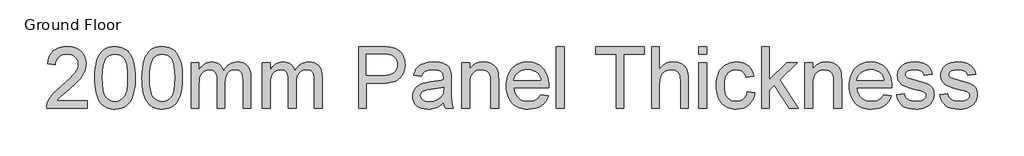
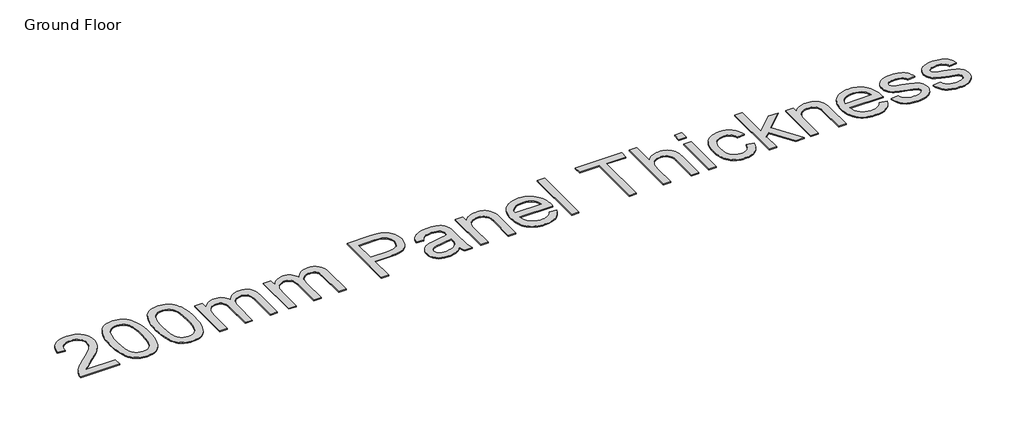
# One storey, part 11 of 12: 1 proxy.
"""IFC4 building model written with IfcOpenShell, lengths in millimetres."""

import ifcopenshell
import ifcopenshell.guid

model = None  # the IFC model being written
_history = None  # IfcOwnerHistory: only IFC2X3 demands one
_inside = {}  # id of a spatial element -> (the spatial element, [elements in it])
_under = {}  # id of a project, library or spatial element -> (it, [spatial elements below it])
_declared = {}  # id of a project -> (the project, [libraries it declares])
_typed = {}  # id of a type object -> (the type object, [elements of that type])
_made_of = {}  # id of a material, layer set ... -> (it, [elements and type objects made of it])


def new_model(schema):
    """Start an empty IFC model of exactly this schema.

    Asked for "IFC4X3", IfcOpenShell would pick the latest addendum, in which some entities
    have other attributes; the version numbers below select the first issue.
    IFC2X3 requires an IfcOwnerHistory on every rooted entity: one is made here for all.
    """
    global model, _history
    if schema == "IFC4X3":
        model = ifcopenshell.file(schema_version=(4, 3, 0, 0))
    else:
        model = ifcopenshell.file(schema=schema)
    _inside.clear()
    _under.clear()
    _declared.clear()
    _typed.clear()
    _made_of.clear()
    _history = None
    if model.schema == "IFC2X3":
        org = make("IfcOrganization", Name="unknown")
        user = make(
            "IfcPersonAndOrganization",
            ThePerson=make("IfcPerson", FamilyName="unknown"),
            TheOrganization=org,
        )
        app = make(
            "IfcApplication",
            ApplicationDeveloper=org,
            Version="unknown",
            ApplicationFullName="unknown",
            ApplicationIdentifier="unknown",
        )
        _history = make(
            "IfcOwnerHistory",
            OwningUser=user,
            OwningApplication=app,
            ChangeAction="ADDED",
            CreationDate=0,
        )
    return model


def make(cls, **values):
    """One entity of the class cls with the attributes given. An attribute that is None is left unset."""
    return model.create_entity(
        cls, **{name: value for name, value in values.items() if value is not None}
    )


def rooted(cls, **values):
    """An entity with a GlobalId (a new one), such as an element, a storey or a relation."""
    return make(cls, GlobalId=ifcopenshell.guid.new(), OwnerHistory=_history, **values)


def si_unit(unit_type, name, prefix=None):
    """IfcSIUnit, for example si_unit("LENGTHUNIT", "METRE", prefix="MILLI")."""
    return make("IfcSIUnit", UnitType=unit_type, Prefix=prefix, Name=name)


def assignment(units):
    """IfcUnitAssignment: the units of a project."""
    return None if units is None else make("IfcUnitAssignment", Units=units)


def point(xyz):
    """IfcCartesianPoint."""
    return None if xyz is None else make("IfcCartesianPoint", Coordinates=xyz)


def direction(xyz):
    """IfcDirection."""
    return None if xyz is None else make("IfcDirection", DirectionRatios=xyz)


def frame(location, z_axis=None, x_axis=None):
    """IfcAxis2Placement3D, a coordinate frame: its origin and axes. An axis left out is left unset."""
    return make(
        "IfcAxis2Placement3D",
        Location=point(location),
        Axis=direction(z_axis),
        RefDirection=direction(x_axis),
    )


def origin():
    """The frame at (0, 0, 0) with its axes left unset."""
    return frame((0.0, 0.0, 0.0))


def origin_with_axes():
    """The frame at (0, 0, 0) with the z axis (0, 0, 1) and the x axis (1, 0, 0) written out."""
    return frame((0.0, 0.0, 0.0), z_axis=(0.0, 0.0, 1.0), x_axis=(1.0, 0.0, 0.0))


def place(relative_to, where):
    """IfcLocalPlacement: puts the frame where relative to a parent placement (None: the world)."""
    return make(
        "IfcLocalPlacement", PlacementRelTo=relative_to, RelativePlacement=where
    )


def context(
    kind, dimensions, precision=None, world=None, true_north=None, identifier=None
):
    """IfcGeometricRepresentationContext, for example the 3D "Model" context."""
    return make(
        "IfcGeometricRepresentationContext",
        ContextIdentifier=identifier,
        ContextType=kind,
        CoordinateSpaceDimension=dimensions,
        Precision=precision,
        WorldCoordinateSystem=world,
        TrueNorth=true_north,
    )


def project(units=None, contexts=None):
    """IfcProject with its units and contexts."""
    return rooted(
        "IfcProject",
        Name="project",
        RepresentationContexts=contexts,
        UnitsInContext=assignment(units),
    )


def spatial(cls, under=None, at=None, **own):
    """A site, building, storey or space (cls), placed at a placement, below another one or the project."""
    s = rooted(cls, ObjectPlacement=at, **own)
    if under is not None:
        _under.setdefault(under.id(), (under, []))[1].append(s)
    return s


def polyline(points):
    """IfcPolyline through the points."""
    return make("IfcPolyline", Points=[point(p) for p in points])


def outline(outer, holes=None, kind="AREA"):
    """IfcArbitraryClosedProfileDef: a profile drawn as a closed curve; with holes, ...WithVoids."""
    if holes is None:
        return make("IfcArbitraryClosedProfileDef", ProfileType=kind, OuterCurve=outer)
    return make(
        "IfcArbitraryProfileDefWithVoids",
        ProfileType=kind,
        OuterCurve=outer,
        InnerCurves=holes,
    )


def extrude(swept, where, along, depth):
    """IfcExtrudedAreaSolid: the profile swept, set in the frame where, extruded along a direction by depth."""
    return make(
        "IfcExtrudedAreaSolid",
        SweptArea=swept,
        Position=where,
        ExtrudedDirection=direction(along),
        Depth=depth,
    )


def shape(context_of_items, identifier, shape_type, items):
    """IfcShapeRepresentation: the items that make up one representation, for example the "Body"."""
    return make(
        "IfcShapeRepresentation",
        ContextOfItems=context_of_items,
        RepresentationIdentifier=identifier,
        RepresentationType=shape_type,
        Items=items,
    )


def made_of(thing, what):
    """Note that an element or type object is made of a material, layer set ...; save() writes the relation."""
    if what is not None:
        _made_of.setdefault(what.id(), (what, []))[1].append(thing)
    return thing


def element(
    cls,
    number,
    at=None,
    inside=None,
    cuts=None,
    type_object=None,
    material=None,
    context=None,
    identifier="Body",
    shape_type=None,
    held_by="IfcProductDefinitionShape",
    body=None,
    shapes=None,
    **own,
):
    """One element of the class cls, such as IfcWall. Its Tag is "e" and its number.

    at: its placement. inside: the storey or other place that contains it. cuts: it is an
    opening in that element (IfcRelVoidsElement). A single representation is given by context,
    identifier, shape_type and body (its items); several are given by shapes. held_by: the class
    of the entity that holds the representations. save() writes the other relations.
    """
    e = rooted(cls, Tag="e%d" % number, ObjectPlacement=at, **own)
    if body is not None:
        shapes = [shape(context, identifier, shape_type, body)]
    if shapes is not None:
        e.Representation = make(held_by, Representations=shapes)
    if inside is not None:
        _inside.setdefault(inside.id(), (inside, []))[1].append(e)
    if cuts is not None:
        rooted(
            "IfcRelVoidsElement", RelatingBuildingElement=cuts, RelatedOpeningElement=e
        )
    if type_object is not None:
        _typed.setdefault(type_object.id(), (type_object, []))[1].append(e)
    return made_of(e, material)


def aggregate(whole, parts):
    """IfcRelAggregates: a whole, such as a stair, and the parts it consists of."""
    return rooted("IfcRelAggregates", RelatingObject=whole, RelatedObjects=parts)


def save(model, path):
    """Write the relations noted so far, then the file.

    IfcRelAggregates (storeys below a building ...), IfcRelContainedInSpatialStructure (elements
    in a storey), IfcRelDefinesByType, IfcRelAssociatesMaterial and IfcRelDeclares: one each for
    every whole, place, type object, material and project.
    """
    for whole, parts in _under.values():
        aggregate(whole, parts)
    for where, things in _inside.values():
        rooted(
            "IfcRelContainedInSpatialStructure",
            RelatedElements=things,
            RelatingStructure=where,
        )
    for kind, things in _typed.values():
        rooted("IfcRelDefinesByType", RelatedObjects=things, RelatingType=kind)
    for what, things in _made_of.values():
        rooted("IfcRelAssociatesMaterial", RelatedObjects=things, RelatingMaterial=what)
    for by, libraries in _declared.values():
        rooted("IfcRelDeclares", RelatingContext=by, RelatedDefinitions=libraries)
    model.write(path)


model = new_model("IFC4")

# Units and contexts
model_context = context("Model", 3, world=origin())
ifc_project = project(units=[si_unit("LENGTHUNIT", "METRE", prefix="MILLI")], contexts=[model_context])

# Site, building, storey
site = spatial("IfcSite", under=ifc_project)
building = spatial("IfcBuilding", under=site)
storey = spatial("IfcBuildingStorey", under=building, Name="Ground Floor", Elevation=0.0)

# Proxy
placement = place(None, origin())
element("IfcBuildingElementProxy", 1, Name="1200mm Arial", ObjectType="1200mm Arial", at=placement, inside=storey, context=model_context, shape_type="SweptSolid", body=[
    extrude(outline(polyline([(150396.7722355, 23157.3033412), (150396.7722355, 23010.3942503), (149625.4995082, 23010.3942503), (149628.7274912, 23062.1137105), (149641.2807582, 23111.6811821), (149657.2951404, 23151.5557382), (149677.5059003, 23190.8384974), (149701.9130381, 23229.5294598), (149730.5165537, 23267.6286253), (149765.0380381, 23306.6244527), (149807.1990821, 23348.0054008), (149914.4398492, 23437.9226594), (150001.6312554, 23512.9373966), (150072.9696787, 23578.7344491), (150128.455119, 23635.313817), (150168.0875764, 23682.6755003), (150195.8302966, 23725.1414094), (150215.6465253, 23767.0334548), (150227.5362625, 23808.3516366), (150231.4995082, 23849.0959548), (150227.760428, 23887.4282524), (150216.5431872, 23922.6580997), (150197.8477859, 23954.7854967), (150171.6742242, 23983.8104434), (150139.4750942, 24007.8499498), (150102.7029884, 24025.0210258), (150061.3579067, 24035.3236714), (150015.4398492, 24038.7578866), (149967.0649379, 24035.404371), (149923.8009997, 24025.3438241), (149885.6480345, 24008.576246), (149852.6060423, 23985.1016366), (149825.8765502, 23955.7090585), (149806.661085, 23921.1875741), (149794.9596467, 23881.5371835), (149790.7722355, 23836.7578866), (149643.8631446, 23855.121523), (149656.4971112, 23930.9611892), (149666.6943991, 23965.2898912), (149679.4785565, 23997.2245059), (149694.8495837, 24026.7650333), (149712.8074805, 24053.9114733), (149733.3522471, 24078.6638259), (149756.4838832, 24101.0220912), (149781.9513238, 24120.8607364), (149809.5035033, 24138.054229), (149839.1404218, 24152.6025688), (149870.8620793, 24164.5057559), (149940.5596112, 24180.3766721), (150018.5960992, 24185.6669775), (150097.3319834, 24179.7848753), (150133.4517677, 24172.4322474), (150167.4061134, 24162.1385684), (150199.1950205, 24148.9038383), (150228.8184891, 24132.7280571), (150256.2765191, 24113.6112247), (150281.5691105, 24091.5533412), (150304.2658657, 24067.3165692), (150323.9363868, 24041.6630713), (150340.5806739, 24014.5928476), (150354.198727, 23986.105898), (150364.7905461, 23956.2022226), (150372.3561311, 23924.8818213), (150378.4085992, 23857.9908412), (150376.7766744, 23822.7071942), (150371.8809003, 23787.7284122), (150363.7212767, 23753.0544953), (150352.2978037, 23718.6854434), (150337.0814507, 23684.0204932), (150317.5431872, 23648.4588809), (150265.5009287, 23574.6456707), (150229.5896183, 23533.7130535), (150182.5417668, 23486.5217361), (150055.0364401, 23373.3630003), (149886.0335992, 23232.0490798), (149849.3780594, 23194.7838099), (149819.7523492, 23157.3033412), (150396.7722355, 23157.3033412)])), origin_with_axes(), (0.0, 0.0, 1.0), 20.0),
    extrude(outline(polyline([(150543.6813264, 23588.5618639), (150546.3802788, 23687.3829754), (150554.4771361, 23776.6815372), (150567.9718982, 23856.4575493), (150586.8645651, 23926.7110116), (150611.0744372, 23988.0157879), (150640.5208151, 24040.9457417), (150675.2036986, 24085.5008731), (150715.1230878, 24121.6811821), (150760.413482, 24149.6749676), (150811.2093804, 24169.6705287), (150867.5107831, 24181.6678653), (150929.3176901, 24185.6669775), (150975.7647781, 24183.29979), (151019.8446787, 24176.1982275), (151061.5573918, 24164.36229), (151100.9029173, 24147.7919775), (151136.9307938, 24126.7652552), (151168.6905594, 24101.5600883), (151196.1822142, 24072.1764768), (151219.4057582, 24038.6144207), (151239.526852, 24001.0084193), (151257.711156, 23959.4929719), (151288.2693946, 23864.7337389), (151299.943933, 23809.0061998), (151308.2828889, 23744.4017076), (151313.2862625, 23670.9202623), (151314.9540537, 23588.5618639), (151312.2820011, 23490.3684157), (151304.2658435, 23401.5181849), (151290.9055807, 23322.0111714), (151272.2012128, 23251.8473753), (151248.1796396, 23190.5156991), (151218.8677611, 23137.5050457), (151184.2655771, 23092.815415), (151144.3730878, 23056.4468071), (151099.0288939, 23028.2647226), (151048.0715963, 23008.1346622), (150991.501195, 22996.056626), (150929.3176901, 22992.0306139), (150887.7125764, 22993.7791047), (150848.4029173, 22999.024577), (150811.3887128, 23007.7670308), (150776.6699628, 23020.0064662), (150744.2466673, 23035.7428831), (150714.1188264, 23054.9762815), (150686.2864401, 23077.7066615), (150660.7495082, 23103.934023), (150633.3116531, 23145.4629204), (150609.5321787, 23192.4345557), (150589.411085, 23244.8489289), (150572.9483719, 23302.70604), (150560.1440395, 23366.0058891), (150550.9980878, 23434.7484761), (150545.5105168, 23508.933801), (150543.6813264, 23588.5618639)]), holes=[polyline([(150690.5904173, 23588.8487957), (150694.8943946, 23461.1372368), (150707.8063264, 23357.7610826), (150717.4902753, 23315.1987824), (150729.3262128, 23278.7203334), (150743.3141389, 23248.3257355), (150759.4540537, 23224.0149889), (150795.8943946, 23186.7945521), (150836.351781, 23160.2085258), (150880.8262128, 23144.2569101), (150929.3176901, 23138.9397048), (150977.8091673, 23144.2748433), (151022.2835992, 23160.2802588), (151062.7409855, 23186.9559513), (151099.1813264, 23224.3019207), (151115.3212412, 23248.6709504), (151129.3091673, 23279.0969314), (151141.1451048, 23315.5798637), (151150.8290537, 23358.1197474), (151163.7409855, 23461.3703689), (151168.0449628, 23588.8487957), (151163.8844514, 23713.1799392), (151151.4029173, 23814.7358696), (151142.0417668, 23856.9731299), (151130.6003605, 23893.5165869), (151117.0786986, 23924.3662407), (151101.476781, 23949.5220912), (151065.6461702, 23988.5627517), (151024.7225196, 24016.4489378), (150978.7058293, 24033.1806494), (150927.5960992, 24038.7578866), (150879.3556872, 24033.8441792), (150835.6344514, 24019.1030571), (150796.4323918, 23994.5345201), (150761.7495082, 23960.1385684), (150745.0715963, 23932.3061821), (150730.617406, 23899.1655571), (150718.3869372, 23860.7166934), (150708.3801901, 23816.9595912), (150695.0378605, 23713.5206707), (150690.5904173, 23588.8487957)])]), origin_with_axes(), (0.0, 0.0, 1.0), 20.0),
    extrude(outline(polyline([(151443.4995082, 23588.5618639), (151446.1984607, 23687.3829754), (151454.2953179, 23776.6815372), (151467.79008, 23856.4575493), (151486.6827469, 23926.7110116), (151510.892619, 23988.0157879), (151540.3389969, 24040.9457417), (151575.0218804, 24085.5008731), (151614.9412696, 24121.6811821), (151660.2316638, 24149.6749676), (151711.0275622, 24169.6705287), (151767.3289649, 24181.6678653), (151829.1358719, 24185.6669775), (151875.58296, 24183.29979), (151919.6628605, 24176.1982275), (151961.3755736, 24164.36229), (152000.7210992, 24147.7919775), (152036.7489756, 24126.7652552), (152068.5087412, 24101.5600883), (152096.000396, 24072.1764768), (152119.2239401, 24038.6144207), (152139.3450338, 24001.0084193), (152157.5293378, 23959.4929719), (152188.0875764, 23864.7337389), (152199.7621148, 23809.0061998), (152208.1010707, 23744.4017076), (152213.1044443, 23670.9202623), (152214.7722355, 23588.5618639), (152212.100183, 23490.3684157), (152204.0840253, 23401.5181849), (152190.7237625, 23322.0111714), (152172.0193946, 23251.8473753), (152147.9978215, 23190.5156991), (152118.6859429, 23137.5050457), (152084.083759, 23092.815415), (152044.1912696, 23056.4468071), (151998.8470757, 23028.2647226), (151947.8897781, 23008.1346622), (151891.3193769, 22996.056626), (151829.1358719, 22992.0306139), (151787.5307582, 22993.7791047), (151748.2210992, 22999.024577), (151711.2068946, 23007.7670308), (151676.4881446, 23020.0064662), (151644.0648492, 23035.7428831), (151613.9370082, 23054.9762815), (151586.1046219, 23077.7066615), (151560.5676901, 23103.934023), (151533.129835, 23145.4629204), (151509.3503605, 23192.4345557), (151489.2292668, 23244.8489289), (151472.7665537, 23302.70604), (151459.9622213, 23366.0058891), (151450.8162696, 23434.7484761), (151445.3286986, 23508.933801), (151443.4995082, 23588.5618639)]), holes=[polyline([(151590.4085992, 23588.8487957), (151594.7125764, 23461.1372368), (151607.6245082, 23357.7610826), (151617.3084571, 23315.1987824), (151629.1443946, 23278.7203334), (151643.1323207, 23248.3257355), (151659.2722355, 23224.0149889), (151695.7125764, 23186.7945521), (151736.1699628, 23160.2085258), (151780.6443946, 23144.2569101), (151829.1358719, 23138.9397048), (151877.6273492, 23144.2748433), (151922.101781, 23160.2802588), (151962.5591673, 23186.9559513), (151998.9995082, 23224.3019207), (152015.139423, 23248.6709504), (152029.1273492, 23279.0969314), (152040.9632867, 23315.5798637), (152050.6472355, 23358.1197474), (152063.5591673, 23461.3703689), (152067.8631446, 23588.8487957), (152063.7026332, 23713.1799392), (152051.2210992, 23814.7358696), (152041.8599486, 23856.9731299), (152030.4185423, 23893.5165869), (152016.8968804, 23924.3662407), (152001.2949628, 23949.5220912), (151965.464352, 23988.5627517), (151924.5407014, 24016.4489378), (151878.5240111, 24033.1806494), (151827.414281, 24038.7578866), (151779.173869, 24033.8441792), (151735.4526332, 24019.1030571), (151696.2505736, 23994.5345201), (151661.5676901, 23960.1385684), (151644.8897781, 23932.3061821), (151630.4355878, 23899.1655571), (151618.205119, 23860.7166934), (151608.1983719, 23816.9595912), (151594.8560423, 23713.5206707), (151590.4085992, 23588.8487957)])]), origin_with_axes(), (0.0, 0.0, 1.0), 20.0),
    extrude(outline(polyline([(152380.0449628, 23010.3942503), (152380.0449628, 23873.4851594), (152526.9540537, 23873.4851594), (152526.9540537, 23731.4539094), (152547.4696787, 23765.8408944), (152571.1415537, 23796.6950315), (152597.9696787, 23824.0163206), (152627.9540537, 23847.8047616), (152660.6104813, 23867.0740265), (152695.4547639, 23880.8377872), (152732.4869017, 23889.0960436), (152771.7068946, 23891.8487957), (152814.5852682, 23889.0422439), (152853.4107298, 23880.6225883), (152888.1832796, 23866.5898291), (152918.9029173, 23846.9439662), (152945.479977, 23822.24093), (152967.8247923, 23793.0366508), (152985.9373634, 23759.3311288), (152999.8176901, 23721.1243639), (153025.6505203, 23761.1379026), (153053.3663406, 23795.8163028), (153082.965151, 23825.1595645), (153114.4469514, 23849.1676878), (153147.8117419, 23867.8406725), (153183.0595225, 23881.1785187), (153220.190293, 23889.1812265), (153259.2040537, 23891.8487957), (153318.0161098, 23887.4103192), (153369.6369372, 23874.0948895), (153414.0665359, 23851.9025067), (153451.304906, 23820.8331707), (153480.7423172, 23780.5282169), (153501.7690395, 23730.6289804), (153514.3850729, 23671.1354612), (153518.5904173, 23602.0476594), (153518.5904173, 23010.3942503), (153371.6813264, 23010.3942503), (153371.6813264, 23538.9226594), (153368.2740111, 23612.1978724), (153358.0520651, 23661.5860116), (153349.856575, 23679.4026842), (153338.8993662, 23695.4080997), (153325.1804386, 23709.6022581), (153308.6997923, 23721.9851594), (153290.0581908, 23732.027773), (153269.8563975, 23739.2010684), (153224.7722355, 23744.9397048), (153183.140222, 23741.2633909), (153145.1845225, 23730.2344491), (153110.9051368, 23711.8528795), (153080.3020651, 23686.1186821), (153055.1327646, 23652.2786608), (153037.1546929, 23609.5796196), (153026.3678499, 23558.0215585), (153022.7722355, 23497.6044775), (153022.7722355, 23010.3942503), (152875.8631446, 23010.3942503), (152875.8631446, 23555.277773), (152873.7380558, 23599.7880713), (152867.3627895, 23638.3445344), (152856.7373456, 23670.9471622), (152841.8617242, 23697.5959548), (152822.1441283, 23718.3088454), (152796.9927611, 23733.1037673), (152766.4076226, 23741.9807204), (152730.3887128, 23744.9397048), (152701.5341318, 23742.9670486), (152673.7914117, 23737.0490798), (152647.1605523, 23727.1857986), (152621.6415537, 23713.3772048), (152598.4000764, 23695.7667645), (152578.601781, 23674.4979434), (152562.2466673, 23649.5707417), (152549.3347355, 23620.9851594), (152539.5431872, 23587.216871), (152532.5492242, 23546.7415514), (152526.9540537, 23445.6698184), (152526.9540537, 23010.3942503), (152380.0449628, 23010.3942503)])), origin_with_axes(), (0.0, 0.0, 1.0), 20.0),
    extrude(outline(polyline([(153738.9540537, 23010.3942503), (153738.9540537, 23873.4851594), (153885.8631446, 23873.4851594), (153885.8631446, 23731.4539094), (153906.3787696, 23765.8408944), (153930.0506446, 23796.6950315), (153956.8787696, 23824.0163206), (153986.8631446, 23847.8047616), (154019.5195722, 23867.0740265), (154054.3638548, 23880.8377872), (154091.3959926, 23889.0960436), (154130.6159855, 23891.8487957), (154173.4943591, 23889.0422439), (154212.3198207, 23880.6225883), (154247.0923705, 23866.5898291), (154277.8120082, 23846.9439662), (154304.3890679, 23822.24093), (154326.7338832, 23793.0366508), (154344.8464543, 23759.3311288), (154358.726781, 23721.1243639), (154384.5596112, 23761.1379026), (154412.2754315, 23795.8163028), (154441.8742419, 23825.1595645), (154473.3560423, 23849.1676878), (154506.7208328, 23867.8406725), (154541.9686134, 23881.1785187), (154579.099384, 23889.1812265), (154618.1131446, 23891.8487957), (154676.9252007, 23887.4103192), (154728.5460281, 23874.0948895), (154772.9756269, 23851.9025067), (154810.2139969, 23820.8331707), (154839.6514081, 23780.5282169), (154860.6781304, 23730.6289804), (154873.2941638, 23671.1354612), (154877.4995082, 23602.0476594), (154877.4995082, 23010.3942503), (154730.5904173, 23010.3942503), (154730.5904173, 23538.9226594), (154727.183102, 23612.1978724), (154716.961156, 23661.5860116), (154708.7656659, 23679.4026842), (154697.8084571, 23695.4080997), (154684.0895296, 23709.6022581), (154667.6088832, 23721.9851594), (154648.9672817, 23732.027773), (154628.7654884, 23739.2010684), (154583.6813264, 23744.9397048), (154542.0493129, 23741.2633909), (154504.0936134, 23730.2344491), (154469.8142277, 23711.8528795), (154439.211156, 23686.1186821), (154414.0418555, 23652.2786608), (154396.0637838, 23609.5796196), (154385.2769408, 23558.0215585), (154381.6813264, 23497.6044775), (154381.6813264, 23010.3942503), (154234.7722355, 23010.3942503), (154234.7722355, 23555.277773), (154232.6471467, 23599.7880713), (154226.2718804, 23638.3445344), (154215.6464365, 23670.9471622), (154200.7708151, 23697.5959548), (154181.0532192, 23718.3088454), (154155.901852, 23733.1037673), (154125.3167135, 23741.9807204), (154089.2978037, 23744.9397048), (154060.4432227, 23742.9670486), (154032.7005026, 23737.0490798), (154006.0696432, 23727.1857986), (153980.5506446, 23713.3772048), (153957.3091673, 23695.7667645), (153937.5108719, 23674.4979434), (153921.1557582, 23649.5707417), (153908.2438264, 23620.9851594), (153898.4522781, 23587.216871), (153891.4583151, 23546.7415514), (153885.8631446, 23445.6698184), (153885.8631446, 23010.3942503), (153738.9540537, 23010.3942503)])), origin_with_axes(), (0.0, 0.0, 1.0), 20.0),
    extrude(outline(polyline([(155575.3176901, 23010.3942503), (155575.3176901, 24185.6669775), (156010.8801901, 24185.6669775), (156112.3105878, 24182.8693923), (156186.4824628, 24174.4766366), (156227.3612803, 24165.6624498), (156264.7789827, 24153.5664804), (156298.73557, 24138.1887282), (156329.2310423, 24119.5291934), (156356.5881979, 24097.2023113), (156381.129835, 24070.8225173), (156402.8559536, 24040.3898113), (156421.7665537, 24005.9041934), (156437.0815395, 23968.5044243), (156448.0208151, 23929.3292645), (156454.5843804, 23888.378714), (156456.7722355, 23845.652773), (156450.8632334, 23773.507354), (156443.4769807, 23739.600083), (156433.136227, 23707.1364378), (156419.8409722, 23676.1164182), (156403.5912163, 23646.5400244), (156384.3869594, 23618.4072563), (156362.2282014, 23591.7181139), (156336.2137971, 23567.3737425), (156305.4426013, 23546.2752872), (156269.9146139, 23528.4227481), (156229.629835, 23513.8161253), (156184.5882645, 23502.4554186), (156134.7899024, 23494.3406281), (156080.2347488, 23489.4717538), (156020.9228037, 23487.8487957), (155722.226781, 23487.8487957), (155722.226781, 23010.3942503), (155575.3176901, 23010.3942503)]), holes=[polyline([(155722.226781, 23634.7578866), (156029.5307582, 23634.7578866), (156100.1877185, 23638.1293355), (156159.7978037, 23648.2436821), (156208.3610139, 23665.1009264), (156245.8773492, 23688.7010684), (156273.8711347, 23718.4164449), (156293.8666957, 23753.6193923), (156305.8640324, 23794.3099108), (156309.8631446, 23840.4880003), (156307.5049237, 23874.7763525), (156300.4302611, 23906.4823184), (156288.6391567, 23935.605898), (156272.1316105, 23962.1470912), (156251.7863513, 23985.2451025), (156228.4821077, 24004.0391366), (156202.2188797, 24018.5291934), (156172.9966673, 24028.715273), (156116.3276332, 24036.2472332), (156026.0875764, 24038.7578866), (155722.226781, 24038.7578866), (155722.226781, 23634.7578866)])]), origin_with_axes(), (0.0, 0.0, 1.0), 20.0),
    extrude(outline(polyline([(157191.3176901, 23120.5760684), (157156.482374, 23087.8837744), (157121.126994, 23060.3921196), (157085.2515502, 23038.101104), (157048.8560423, 23021.0107275), (157011.5280061, 23008.3319278), (156972.854977, 22999.2756423), (156932.836955, 22993.841871), (156891.4739401, 22992.0306139), (156826.0624521, 22996.3883909), (156768.7029884, 23009.4617219), (156719.3955487, 23031.2506068), (156678.1401332, 23061.7550457), (156645.5644053, 23099.0382488), (156622.2960281, 23141.1634264), (156608.3350019, 23188.1305784), (156603.6813264, 23239.9397048), (156605.4387838, 23271.0897403), (156610.711156, 23300.8409832), (156619.4984429, 23329.1934335), (156631.8006446, 23356.1470912), (156646.9631979, 23381.1101594), (156664.3315395, 23403.4908412), (156683.9056695, 23423.2891366), (156705.6855878, 23440.5050457), (156754.2846645, 23468.480898), (156808.5506446, 23488.7095912), (156861.4178321, 23499.971665), (156935.6614401, 23510.8033412), (157085.8702469, 23534.0448184), (157143.8663406, 23547.1719491), (157190.4568946, 23561.3033412), (157191.3176901, 23594.0135684), (157188.7891034, 23629.6289804), (157181.2033435, 23659.5774889), (157168.5604102, 23683.859094), (157150.8603037, 23702.4737957), (157120.2661986, 23721.0526309), (157083.0009287, 23734.3232275), (157039.064494, 23742.2855855), (156988.4568946, 23744.9397048), (156941.4000764, 23743.1732808), (156900.9426901, 23737.8740088), (156867.0847355, 23729.0418888), (156839.8262128, 23716.6769207), (156817.4275977, 23699.8107098), (156798.1493662, 23677.4748611), (156781.9915182, 23649.6693746), (156768.9540537, 23616.3942503), (156622.0449628, 23634.7578866), (156633.2263371, 23677.0803298), (156647.5460281, 23715.0987957), (156665.0040359, 23748.8132844), (156685.6003605, 23778.2237957), (156710.2226972, 23803.9221267), (156739.7587412, 23826.5000741), (156774.2084926, 23845.957638), (156813.5719514, 23862.2948184), (156857.0510885, 23875.2246835), (156903.8478747, 23884.4603014), (156953.9623101, 23890.0016721), (157007.3943946, 23891.8487957), (157059.6249521, 23890.216871), (157106.7086702, 23885.3210969), (157148.6455487, 23877.1614733), (157185.4355878, 23865.7380003), (157217.3836524, 23851.8487069), (157244.7946077, 23836.2916224), (157267.6684536, 23819.0667467), (157286.0051901, 23800.1740798), (157300.8718449, 23779.1473575), (157313.3354457, 23755.5203156), (157331.0534855, 23700.465273), (157336.4334571, 23649.6783412), (157338.226781, 23571.9198184), (157338.226781, 23389.1442503), (157340.0918378, 23229.9329576), (157345.6870082, 23133.918398), (157356.7338832, 23070.8292645), (157374.9540537, 23010.3942503), (157228.0449628, 23010.3942503), (157214.9895651, 23034.9269207), (157204.5165537, 23061.4681139), (157191.3176901, 23120.5760684)]), holes=[polyline([(157191.3176901, 23414.3942503), (157146.9149912, 23401.6795841), (157092.6131446, 23389.9333128), (156954.3120082, 23369.3459548), (156878.095744, 23358.0838809), (156827.9185423, 23345.5306139), (156795.0289827, 23329.2472332), (156770.6756446, 23306.7948184), (156755.6117242, 23279.8949605), (156750.5904173, 23250.2692503), (156753.3252362, 23227.4402375), (156761.5296929, 23206.5838809), (156775.2037874, 23187.7001807), (156794.3475196, 23170.7891366), (156818.7815573, 23156.8550102), (156848.3265679, 23146.9020628), (156882.9825516, 23140.9302943), (156922.7495082, 23138.9397048), (156963.3503605, 23141.1365265), (157001.6557582, 23147.7269917), (157037.6657014, 23158.7111004), (157071.3801901, 23174.0888525), (157101.7949628, 23192.5869882), (157127.9057582, 23212.9322474), (157149.7125764, 23235.1246302), (157167.2154173, 23259.1641366), (157177.3835636, 23280.684023), (157184.6465253, 23306.7948184), (157189.0043023, 23337.496523), (157190.4568946, 23372.7891366), (157191.3176901, 23414.3942503)])]), origin_with_axes(), (0.0, 0.0, 1.0), 20.0),
    extrude(outline(polyline([(157540.226781, 23010.3942503), (157540.226781, 23873.4851594), (157687.1358719, 23873.4851594), (157687.1358719, 23752.9737957), (157711.3726439, 23785.5226238), (157738.173869, 23813.7316082), (157767.5395473, 23837.6007488), (157799.4696787, 23857.1300457), (157833.9642632, 23872.3194988), (157871.0233009, 23883.1691082), (157910.6467916, 23889.6788738), (157952.8347355, 23891.8487957), (157989.804107, 23890.100305), (158025.2491531, 23884.8548326), (158059.169874, 23876.1123788), (158091.5662696, 23863.8729434), (158121.2099131, 23848.7910898), (158146.8723776, 23831.5213809), (158168.5536631, 23812.063817), (158186.2537696, 23790.418398), (158212.9742952, 23740.671594), (158230.2978037, 23682.3885684), (158236.108173, 23626.6520628), (158238.0449628, 23540.3573184), (158238.0449628, 23010.3942503), (158091.1358719, 23010.3942503), (158091.1358719, 23520.559023), (158086.9036276, 23596.5242219), (158081.6133222, 23626.2754648), (158074.2068946, 23650.5391366), (158064.1194479, 23670.9740621), (158050.786085, 23689.2390656), (158034.2068058, 23705.3341473), (158014.3816105, 23719.2593071), (157991.9919621, 23730.4944811), (157967.7193236, 23738.5196054), (157941.563695, 23743.33468), (157913.5250764, 23744.9397048), (157868.9161453, 23741.3351238), (157827.4813975, 23730.5213809), (157789.2208328, 23712.4984761), (157754.1344514, 23687.2664094), (157738.4316593, 23671.2296107), (157724.8225729, 23651.9558625), (157713.307192, 23629.4451647), (157703.8855168, 23603.6975173), (157691.3232831, 23542.4913738), (157687.1358719, 23468.3374321), (157687.1358719, 23010.3942503), (157540.226781, 23010.3942503)])), origin_with_axes(), (0.0, 0.0, 1.0), 20.0),
    extrude(outline(polyline([(159044.3233719, 23267.4851594), (159188.3631446, 23249.121523), (159166.2783612, 23191.4302943), (159136.464352, 23140.5895628), (159098.9211169, 23096.5993284), (159053.648656, 23059.4595912), (159001.1132334, 23029.9594136), (158941.7811134, 23008.8878582), (158875.6522959, 22996.244925), (158802.726781, 22992.0306139), (158755.9075782, 22993.848596), (158711.572129, 22999.3025422), (158669.7204333, 23008.3924525), (158630.3524912, 23021.118327), (158593.4683026, 23037.4801656), (158559.0678676, 23057.4779683), (158527.1511862, 23081.1117352), (158497.7182582, 23108.3814662), (158471.2891478, 23138.9329798), (158448.3839188, 23172.4120947), (158429.0025711, 23208.8188108), (158413.1451048, 23248.1531281), (158400.81152, 23290.4150466), (158392.0018165, 23335.6045663), (158386.7159944, 23383.7216872), (158384.9540537, 23434.7664094), (158386.7339276, 23487.548414), (158392.0735494, 23537.2907346), (158400.9729191, 23583.9933714), (158413.4320367, 23627.6563241), (158429.4509021, 23668.2795929), (158449.0295154, 23705.8631778), (158472.1678765, 23740.4070787), (158498.8659855, 23771.9112957), (158528.4020296, 23800.0216473), (158560.0541957, 23824.383952), (158593.8224841, 23844.9982098), (158629.7068946, 23861.8644207), (158667.7074273, 23874.9825848), (158707.8240821, 23884.352702), (158750.0568591, 23889.9747723), (158794.4057582, 23891.8487957), (158837.3043067, 23889.9792556), (158878.1988158, 23884.3706352), (158917.0892854, 23875.0229346), (158953.9757156, 23861.9361537), (158988.8581064, 23845.1102925), (159021.7364578, 23824.5453511), (159052.6107698, 23800.2413295), (159081.4810423, 23772.1982275), (159107.6075294, 23740.7657435), (159130.2504848, 23706.2935755), (159149.4099086, 23668.7817236), (159165.0858009, 23628.2301878), (159177.2781615, 23584.6389679), (159185.9869905, 23538.0080642), (159191.2122879, 23488.3374765), (159192.9540537, 23435.6272048), (159192.0932582, 23396.0306139), (158531.8631446, 23396.0306139), (158540.3724663, 23337.4068568), (158557.292477, 23286.0639946), (158582.6231766, 23242.0020273), (158616.3645651, 23205.2209548), (158656.6515857, 23176.2229079), (158701.6191815, 23155.5100173), (158751.2673527, 23143.0822829), (158805.5960992, 23138.9397048), (158846.2328179, 23140.8585613), (158883.7850196, 23146.6151309), (158918.2527043, 23156.2094136), (158949.6358719, 23169.6414094), (158977.9345225, 23187.2697829), (159003.148656, 23209.4531991), (159025.2782725, 23236.1916579), (159044.3233719, 23267.4851594)]), holes=[polyline([(158531.8631446, 23542.9397048), (159046.0449628, 23542.9397048), (159038.4950693, 23584.508952), (159026.1749344, 23620.5547616), (159009.084558, 23651.0771338), (158987.2239401, 23676.0760684), (158947.161085, 23706.2039094), (158901.5747923, 23727.7237957), (158850.4650622, 23740.6357275), (158793.8318946, 23744.9397048), (158742.1752007, 23741.5054896), (158694.8045509, 23731.202844), (158651.719945, 23714.031768), (158612.9213832, 23689.9922616), (158580.3635885, 23660.1961856), (158556.0012838, 23625.7554008), (158539.8344692, 23586.6699072), (158531.8631446, 23542.9397048)])]), origin_with_axes(), (0.0, 0.0, 1.0), 20.0),
    extrude(outline(polyline([(159339.8631446, 23010.3942503), (159339.8631446, 24185.6669775), (159486.7722355, 24185.6669775), (159486.7722355, 23010.3942503), (159339.8631446, 23010.3942503)])), origin_with_axes(), (0.0, 0.0, 1.0), 20.0),
    extrude(outline(polyline([(160478.4085992, 23010.3942503), (160478.4085992, 24038.7578866), (160092.7722355, 24038.7578866), (160092.7722355, 24185.6669775), (161010.9540537, 24185.6669775), (161010.9540537, 24038.7578866), (160625.3176901, 24038.7578866), (160625.3176901, 23010.3942503), (160478.4085992, 23010.3942503)])), origin_with_axes(), (0.0, 0.0, 1.0), 20.0),
    extrude(outline(polyline([(161157.8631446, 23010.3942503), (161157.8631446, 24185.6669775), (161304.7722355, 24185.6669775), (161304.7722355, 23753.5476594), (161330.9233808, 23785.9619882), (161358.7333506, 23814.0544065), (161388.202145, 23837.8249143), (161419.3297639, 23857.2735116), (161452.1162075, 23872.4001984), (161486.5614756, 23883.2049747), (161522.6655683, 23889.6878405), (161560.4284855, 23891.8487957), (161606.3555097, 23889.4905748), (161649.1621503, 23882.4159122), (161688.8484074, 23870.6248078), (161725.414281, 23854.1172616), (161757.9272426, 23833.4492041), (161785.4547639, 23809.1765656), (161807.9968449, 23781.2993461), (161825.5534855, 23749.8175457), (161838.7344159, 23712.7854079), (161848.1493662, 23668.2571764), (161853.7983364, 23616.2328511), (161855.6813264, 23556.7124321), (161855.6813264, 23010.3942503), (161708.7722355, 23010.3942503), (161708.7722355, 23541.5050457), (161705.8491176, 23591.1083838), (161697.0797639, 23633.4666934), (161682.4641744, 23668.5799747), (161662.0023492, 23696.4482275), (161636.1784855, 23717.6632488), (161605.476781, 23732.8168355), (161569.8972355, 23741.9089875), (161529.4398492, 23744.9397048), (161497.9221823, 23742.8953156), (161467.354977, 23736.762148), (161437.7382334, 23726.540202), (161409.0719514, 23712.2294775), (161382.9073563, 23694.4217716), (161360.795673, 23673.7088809), (161342.7369017, 23650.0908057), (161328.7310423, 23623.5675457), (161318.2490644, 23592.9196409), (161310.7619372, 23556.9276309), (161306.2696609, 23515.5915159), (161304.7722355, 23468.9112957), (161304.7722355, 23010.3942503), (161157.8631446, 23010.3942503)])), origin_with_axes(), (0.0, 0.0, 1.0), 20.0),
    extrude(outline(polyline([(162057.6813264, 23010.3942503), (162057.6813264, 23873.4851594), (162204.5904173, 23873.4851594), (162204.5904173, 23010.3942503), (162057.6813264, 23010.3942503)])), origin_with_axes(), (0.0, 0.0, 1.0), 20.0),
    extrude(outline(polyline([(162057.6813264, 24038.7578866), (162057.6813264, 24185.6669775), (162204.5904173, 24185.6669775), (162204.5904173, 24038.7578866), (162057.6813264, 24038.7578866)])), origin_with_axes(), (0.0, 0.0, 1.0), 20.0),
    extrude(outline(polyline([(162975.8631446, 23322.5760684), (163122.7722355, 23304.2124321), (163106.7937199, 23234.8914981), (163081.8127185, 23173.5508554), (163047.8292313, 23120.1905038), (163004.8432582, 23074.8104434), (162954.6660565, 23038.594268), (162899.1088832, 23012.7255713), (162838.1717384, 22997.2043532), (162771.8546219, 22992.0306139), (162729.5927034, 22993.835146), (162689.460357, 22999.2487425), (162651.4575826, 23008.2714031), (162615.5843804, 23020.9031281), (162581.8407503, 23037.1439173), (162550.2266922, 23056.9937709), (162520.7422062, 23080.4526887), (162493.3872923, 23107.5206707), (162468.7402975, 23137.9601016), (162447.3795686, 23171.533366), (162429.3051057, 23208.2404639), (162414.5169088, 23248.0813951), (162403.0149779, 23291.0561599), (162394.7993129, 23337.1647581), (162389.869914, 23386.4071897), (162388.226781, 23438.7834548), (162391.0333328, 23506.3289981), (162399.4529884, 23569.5167645), (162413.4857476, 23628.3467538), (162433.1316105, 23682.8189662), (162458.5250764, 23731.839474), (162489.8006446, 23774.3143497), (162526.9583151, 23810.2435933), (162569.9980878, 23839.6272048), (162616.9742064, 23862.4741508), (162665.9409145, 23878.793398), (162716.8982121, 23888.5849463), (162769.8460992, 23891.8487957), (162835.024455, 23887.3654861), (162893.979977, 23873.9155571), (162946.7126652, 23851.4990088), (162993.2225196, 23820.1158412), (163032.7204777, 23780.4833838), (163064.417477, 23733.3189662), (163088.3135175, 23678.6225883), (163104.4085992, 23616.3942503), (162957.4995082, 23598.0306139), (162946.0312021, 23632.345866), (162930.8507156, 23662.1240088), (162911.9580487, 23687.3650422), (162889.3532014, 23708.0689662), (162863.6100374, 23724.1999143), (162835.3024202, 23735.7220201), (162804.4303499, 23742.6352836), (162770.9938264, 23744.9397048), (162721.0766567, 23740.4025954), (162676.0552611, 23726.7912673), (162635.9296396, 23704.1057204), (162600.6997923, 23672.3459548), (162585.3332485, 23652.8794243), (162572.0155771, 23630.7767076), (162551.526852, 23578.6627162), (162539.2336169, 23516.0039804), (162535.1358719, 23442.8005003), (162539.1439507, 23368.494126), (162551.1681872, 23305.109094), (162571.2085814, 23252.6454044), (162584.2348376, 23230.5090629), (162599.2651332, 23211.1030571), (162633.7955842, 23179.5315905), (162673.2576759, 23156.9805429), (162717.6514081, 23143.4499143), (162766.976781, 23138.9397048), (162806.7258044, 23141.7552233), (162843.0495793, 23150.2017787), (162875.9481055, 23164.279371), (162905.4213832, 23183.9880003), (162930.6444834, 23209.5428653), (162950.792477, 23241.159165), (162965.8653641, 23278.8368994), (162975.8631446, 23322.5760684)])), origin_with_axes(), (0.0, 0.0, 1.0), 20.0),
    extrude(outline(polyline([(163251.3176901, 23010.3942503), (163251.3176901, 24185.6669775), (163398.226781, 24185.6669775), (163398.226781, 23554.1300457), (163727.6245082, 23873.4851594), (163930.7722355, 23873.4851594), (163597.3574628, 23550.1130003), (163949.1358719, 23010.3942503), (163777.5506446, 23010.3942503), (163492.0534855, 23447.965273), (163398.226781, 23357.0078866), (163398.226781, 23010.3942503), (163251.3176901, 23010.3942503)])), origin_with_axes(), (0.0, 0.0, 1.0), 20.0),
    extrude(outline(polyline([(164077.6813264, 23010.3942503), (164077.6813264, 23873.4851594), (164224.5904173, 23873.4851594), (164224.5904173, 23752.9737957), (164248.8271894, 23785.5226238), (164275.6284145, 23813.7316082), (164304.9940928, 23837.6007488), (164336.9242242, 23857.1300457), (164371.4188087, 23872.3194988), (164408.4778463, 23883.1691082), (164448.1013371, 23889.6788738), (164490.289281, 23891.8487957), (164527.2586524, 23890.100305), (164562.7036986, 23884.8548326), (164596.6244195, 23876.1123788), (164629.0208151, 23863.8729434), (164658.6644585, 23848.7910898), (164684.326923, 23831.5213809), (164706.0082085, 23812.063817), (164723.7083151, 23790.418398), (164750.4288406, 23740.671594), (164767.7523492, 23682.3885684), (164773.5627185, 23626.6520628), (164775.4995082, 23540.3573184), (164775.4995082, 23010.3942503), (164628.5904173, 23010.3942503), (164628.5904173, 23520.559023), (164624.358173, 23596.5242219), (164619.0678676, 23626.2754648), (164611.6614401, 23650.5391366), (164601.5739933, 23670.9740621), (164588.2406304, 23689.2390656), (164571.6613513, 23705.3341473), (164551.836156, 23719.2593071), (164529.4465075, 23730.4944811), (164505.173869, 23738.5196054), (164479.0182405, 23743.33468), (164450.9796219, 23744.9397048), (164406.3706908, 23741.3351238), (164364.9359429, 23730.5213809), (164326.6753783, 23712.4984761), (164291.5889969, 23687.2664094), (164275.8862048, 23671.2296107), (164262.2771183, 23651.9558625), (164250.7617375, 23629.4451647), (164241.3400622, 23603.6975173), (164228.7778286, 23542.4913738), (164224.5904173, 23468.3374321), (164224.5904173, 23010.3942503), (164077.6813264, 23010.3942503)])), origin_with_axes(), (0.0, 0.0, 1.0), 20.0),
    extrude(outline(polyline([(165581.7779173, 23267.4851594), (165725.8176901, 23249.121523), (165703.7329067, 23191.4302943), (165673.9188975, 23140.5895628), (165636.3756624, 23096.5993284), (165591.1032014, 23059.4595912), (165538.5677788, 23029.9594136), (165479.2356588, 23008.8878582), (165413.1068413, 22996.244925), (165340.1813264, 22992.0306139), (165293.3621237, 22993.848596), (165249.0266744, 22999.3025422), (165207.1749788, 23008.3924525), (165167.8070367, 23021.118327), (165130.9228481, 23037.4801656), (165096.5224131, 23057.4779683), (165064.6057316, 23081.1117352), (165035.1728037, 23108.3814662), (165008.7436933, 23138.9329798), (164985.8384642, 23172.4120947), (164966.4571166, 23208.8188108), (164950.5996503, 23248.1531281), (164938.2660654, 23290.4150466), (164929.4563619, 23335.6045663), (164924.1705399, 23383.7216872), (164922.4085992, 23434.7664094), (164924.1884731, 23487.548414), (164929.5280949, 23537.2907346), (164938.4274646, 23583.9933714), (164950.8865821, 23627.6563241), (164966.9054475, 23668.2795929), (164986.4840608, 23705.8631778), (165009.622422, 23740.4070787), (165036.320531, 23771.9112957), (165065.856575, 23800.0216473), (165097.5087412, 23824.383952), (165131.2770296, 23844.9982098), (165167.1614401, 23861.8644207), (165205.1619727, 23874.9825848), (165245.2786276, 23884.352702), (165287.5114046, 23889.9747723), (165331.8603037, 23891.8487957), (165374.7588522, 23889.9792556), (165415.6533612, 23884.3706352), (165454.5438309, 23875.0229346), (165491.4302611, 23861.9361537), (165526.3126519, 23845.1102925), (165559.1910033, 23824.5453511), (165590.0653152, 23800.2413295), (165618.9355878, 23772.1982275), (165645.0620748, 23740.7657435), (165667.7050303, 23706.2935755), (165686.8644541, 23668.7817236), (165702.5403463, 23628.2301878), (165714.7327069, 23584.6389679), (165723.4415359, 23538.0080642), (165728.6668334, 23488.3374765), (165730.4085992, 23435.6272048), (165729.5478037, 23396.0306139), (165069.3176901, 23396.0306139), (165077.8270118, 23337.4068568), (165094.7470225, 23286.0639946), (165120.077722, 23242.0020273), (165153.8191105, 23205.2209548), (165194.1061311, 23176.2229079), (165239.073727, 23155.5100173), (165288.7218982, 23143.0822829), (165343.0506446, 23138.9397048), (165383.6873634, 23140.8585613), (165421.2395651, 23146.6151309), (165455.7072497, 23156.2094136), (165487.0904173, 23169.6414094), (165515.3890679, 23187.2697829), (165540.6032014, 23209.4531991), (165562.7328179, 23236.1916579), (165581.7779173, 23267.4851594)]), holes=[polyline([(165069.3176901, 23542.9397048), (165583.4995082, 23542.9397048), (165575.9496148, 23584.508952), (165563.6294798, 23620.5547616), (165546.5391034, 23651.0771338), (165524.6784855, 23676.0760684), (165484.6156304, 23706.2039094), (165439.0293378, 23727.7237957), (165387.9196077, 23740.6357275), (165331.2864401, 23744.9397048), (165279.6297462, 23741.5054896), (165232.2590963, 23731.202844), (165189.1744905, 23714.031768), (165150.3759287, 23689.9922616), (165117.818134, 23660.1961856), (165093.4558293, 23625.7554008), (165077.2890146, 23586.6699072), (165069.3176901, 23542.9397048)])]), origin_with_axes(), (0.0, 0.0, 1.0), 20.0),
    extrude(outline(polyline([(165822.226781, 23267.4851594), (165969.1358719, 23285.8487957), (165978.012825, 23252.3495059), (165992.3056162, 23223.0107275), (166012.0142455, 23197.8324605), (166037.1387128, 23176.8147048), (166067.7507511, 23160.2443923), (166103.9220935, 23148.4084548), (166145.6527398, 23141.3068923), (166192.9426901, 23138.9397048), (166240.1788406, 23141.1096267), (166280.8872923, 23147.6193923), (166315.0680452, 23158.4690017), (166342.7210992, 23173.6584548), (166364.0616531, 23191.7710258), (166379.304906, 23211.3899889), (166388.4508577, 23232.515344), (166391.4995082, 23255.1470912), (166388.4329244, 23274.9812531), (166379.233173, 23292.5916934), (166363.900254, 23307.9784122), (166342.4341673, 23321.1414094), (166287.4149912, 23339.7919775), (166191.2210992, 23363.0334548), (166057.1522071, 23401.8051167), (165969.9966673, 23434.9098753), (165940.0750587, 23451.5070876), (165914.0090963, 23471.0274179), (165891.7987803, 23493.470866), (165873.4441105, 23518.8374321), (165859.0706198, 23546.3649534), (165848.8038406, 23575.2912673), (165842.6437732, 23605.6163738), (165840.5904173, 23637.340273), (165842.2402753, 23666.3472865), (165847.1898492, 23694.2603724), (165855.4391389, 23721.0795308), (165866.9881446, 23746.8047616), (165881.3885352, 23770.916001), (165898.1919798, 23792.8931849), (165917.3984784, 23812.7363135), (165939.008031, 23830.4453866), (165979.5730168, 23854.0813951), (166032.4043378, 23873.9155571), (166093.4849486, 23887.3654861), (166158.7978037, 23891.8487957), (166208.1680097, 23890.0465052), (166254.4178321, 23884.6396338), (166297.547271, 23875.6281814), (166337.5563264, 23863.012148), (166373.4945367, 23847.3205642), (166404.4114401, 23829.0824605), (166430.3070367, 23808.2978369), (166451.1813264, 23784.9666934), (166468.1103037, 23758.2730677), (166482.1699628, 23727.4009974), (166493.3603037, 23692.3504825), (166501.6813264, 23653.121523), (166354.7722355, 23634.7578866), (166347.7693058, 23659.2995237), (166336.2292668, 23680.9897758), (166320.1521183, 23699.828643), (166299.5378605, 23715.8161253), (166274.2968271, 23728.5576913), (166244.339352, 23737.6588099), (166209.6654351, 23743.1194811), (166170.2750764, 23744.9397048), (166124.5811844, 23743.2001807), (166085.9171219, 23737.9816082), (166054.2828889, 23729.2839875), (166029.6784855, 23717.1073184), (166011.225183, 23702.6172616), (165998.0442526, 23686.9794775), (165990.1356943, 23670.1939662), (165987.4995082, 23652.2607275), (165991.8752185, 23629.6648469), (166005.0023492, 23609.5078866), (166027.4547639, 23591.502915), (166059.8063264, 23577.0845912), (166186.3432582, 23545.809023), (166316.1440395, 23507.4318923), (166401.9725196, 23476.6584548), (166432.1720935, 23461.6483341), (166458.9284855, 23443.5895628), (166482.2416957, 23422.4821409), (166502.1117242, 23398.3260684), (166517.991607, 23371.085479), (166529.3343804, 23340.7245059), (166536.1400445, 23307.2431494), (166538.4085992, 23270.6414094), (166535.7455132, 23233.8782701), (166527.7562554, 23198.1911253), (166514.4408257, 23163.5799747), (166495.7992242, 23130.0448184), (166472.1363158, 23098.9216828), (166443.7569656, 23071.546594), (166410.6611737, 23047.9195521), (166372.8489401, 23028.0405571), (166331.3514259, 23012.2862069), (166287.1997923, 23001.0330997), (166240.3940395, 22994.2812353), (166190.9341673, 22992.0306139), (166111.8665182, 22996.3704576), (166042.8056162, 23009.3899889), (165983.7514614, 23031.0892076), (165934.7040537, 23061.4681139), (165894.6411986, 23100.3832417), (165862.5407014, 23147.6911253), (165838.4025622, 23203.3917645), (165822.226781, 23267.4851594)])), origin_with_axes(), (0.0, 0.0, 1.0), 20.0),
    extrude(outline(polyline([(166648.5904173, 23267.4851594), (166795.4995082, 23285.8487957), (166804.3764614, 23252.3495059), (166818.6692526, 23223.0107275), (166838.3778818, 23197.8324605), (166863.5023492, 23176.8147048), (166894.1143875, 23160.2443923), (166930.2857298, 23148.4084548), (166972.0163761, 23141.3068923), (167019.3063264, 23138.9397048), (167066.542477, 23141.1096267), (167107.2509287, 23147.6193923), (167141.4316815, 23158.4690017), (167169.0847355, 23173.6584548), (167190.4252895, 23191.7710258), (167205.6685423, 23211.3899889), (167214.814494, 23232.515344), (167217.8631446, 23255.1470912), (167214.7965608, 23274.9812531), (167205.5968094, 23292.5916934), (167190.2638904, 23307.9784122), (167168.7978037, 23321.1414094), (167113.7786276, 23339.7919775), (167017.5847355, 23363.0334548), (166883.5158435, 23401.8051167), (166796.3603037, 23434.9098753), (166766.438695, 23451.5070876), (166740.3727327, 23471.0274179), (166718.1624166, 23493.470866), (166699.8077469, 23518.8374321), (166685.4342561, 23546.3649534), (166675.167477, 23575.2912673), (166669.0074095, 23605.6163738), (166666.9540537, 23637.340273), (166668.6039117, 23666.3472865), (166673.5534855, 23694.2603724), (166681.8027753, 23721.0795308), (166693.351781, 23746.8047616), (166707.7521716, 23770.916001), (166724.5556162, 23792.8931849), (166743.7621148, 23812.7363135), (166765.3716673, 23830.4453866), (166805.9366531, 23854.0813951), (166858.7679742, 23873.9155571), (166919.848585, 23887.3654861), (166985.1614401, 23891.8487957), (167034.531646, 23890.0465052), (167080.7814685, 23884.6396338), (167123.9109074, 23875.6281814), (167163.9199628, 23863.012148), (167199.858173, 23847.3205642), (167230.7750764, 23829.0824605), (167256.670673, 23808.2978369), (167277.5449628, 23784.9666934), (167294.4739401, 23758.2730677), (167308.5335992, 23727.4009974), (167319.7239401, 23692.3504825), (167328.0449628, 23653.121523), (167181.1358719, 23634.7578866), (167174.1329422, 23659.2995237), (167162.5929031, 23680.9897758), (167146.5157547, 23699.828643), (167125.9014969, 23715.8161253), (167100.6604635, 23728.5576913), (167070.7029884, 23737.6588099), (167036.0290715, 23743.1194811), (166996.6387128, 23744.9397048), (166950.9448207, 23743.2001807), (166912.2807582, 23737.9816082), (166880.6465253, 23729.2839875), (166856.0421219, 23717.1073184), (166837.5888193, 23702.6172616), (166824.4078889, 23686.9794775), (166816.4993307, 23670.1939662), (166813.8631446, 23652.2607275), (166818.2388548, 23629.6648469), (166831.3659855, 23609.5078866), (166853.8184003, 23591.502915), (166886.1699628, 23577.0845912), (167012.7068946, 23545.809023), (167142.5076759, 23507.4318923), (167228.336156, 23476.6584548), (167258.5357298, 23461.6483341), (167285.2921219, 23443.5895628), (167308.6053321, 23422.4821409), (167328.4753605, 23398.3260684), (167344.3552433, 23371.085479), (167355.6980168, 23340.7245059), (167362.5036808, 23307.2431494), (167364.7722355, 23270.6414094), (167362.1091496, 23233.8782701), (167354.1198918, 23198.1911253), (167340.8044621, 23163.5799747), (167322.1628605, 23130.0448184), (167298.4999521, 23098.9216828), (167270.120602, 23071.546594), (167237.0248101, 23047.9195521), (167199.2125764, 23028.0405571), (167157.7150622, 23012.2862069), (167113.5634287, 23001.0330997), (167066.7576759, 22994.2812353), (167017.2978037, 22992.0306139), (166938.2301546, 22996.3704576), (166869.1692526, 23009.3899889), (166810.1150977, 23031.0892076), (166761.0676901, 23061.4681139), (166721.004835, 23100.3832417), (166688.9043378, 23147.6911253), (166664.7661986, 23203.3917645), (166648.5904173, 23267.4851594)])), origin_with_axes(), (0.0, 0.0, 1.0), 20.0),
])

save(model, "model.ifc")
